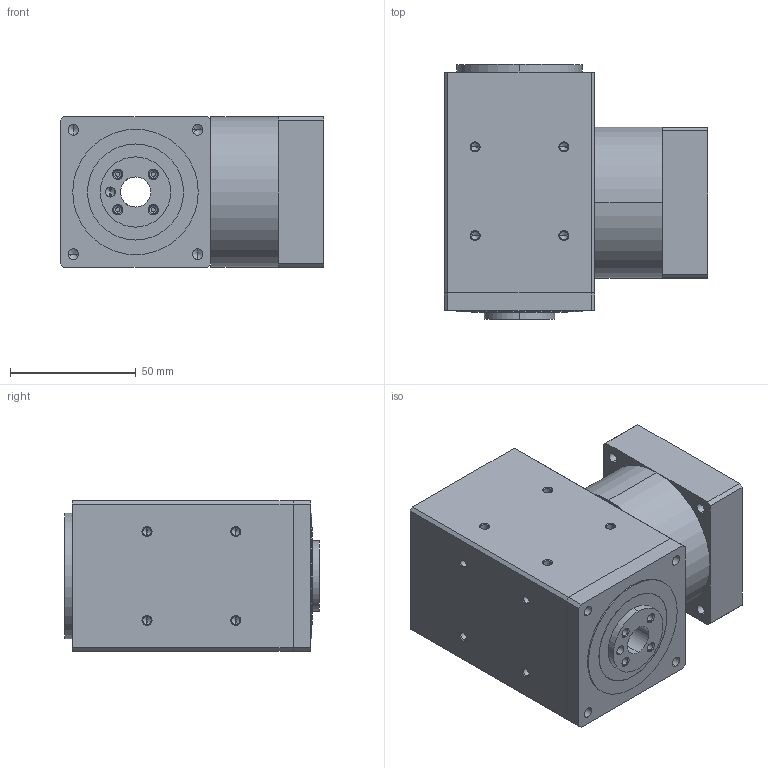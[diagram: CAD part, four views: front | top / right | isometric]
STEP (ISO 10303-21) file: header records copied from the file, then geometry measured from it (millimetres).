
FILE_DESCRIPTION (( 'STEP AP203' ), '1' );
FILE_NAME ('RAFS-060.STEP', '2010-05-27T18:48:09', ( 'render' ), ( '' ), 'SwSTEP 2.0', 'SolidWorks 2009', '' );
FILE_SCHEMA (( 'CONFIG_CONTROL_DESIGN' ));
Length unit declared in the file: millimetre
Products named in the file (1): RAFS-060
Bounding box: 105 x 101.5 x 60 mm (x, y, z)
Volume: 455420.6 mm3; surface area: 66544 mm2
Topology: 3 solids, 3 shells, 234 faces, 568 edges, 327 vertices
Faces by surface type: cylinder 105, cone 86, plane 43
Entity records: 6680 total; most frequent: DIRECTION 1257, CARTESIAN_POINT 1093, ORIENTED_EDGE 1052, EDGE_CURVE 526, AXIS2_PLACEMENT_3D 497, VERTEX_POINT 327, EDGE_LOOP 293, VECTOR 263
